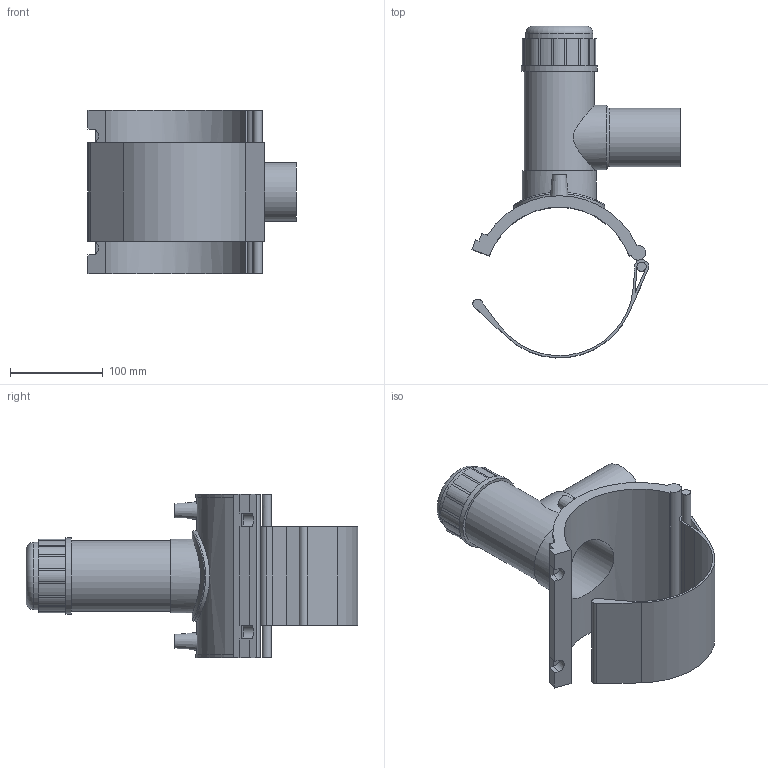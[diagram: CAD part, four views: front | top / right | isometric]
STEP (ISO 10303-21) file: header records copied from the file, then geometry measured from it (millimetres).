
FILE_DESCRIPTION(/* description */ ('PLASSON TAPPING TEE SADDLE 160mm x 63mm'),/* implementation_level */ '2;1');
FILE_NAME(/* name */ 'C:\Dropbox\KIMPROJECTS-Inventor 2019\99-16-3568-Processing\ElectroFusion Fittings\491304\491304160063.stp',/* time_stamp */ '2023-03-23T11:28:44+02:00',/* author */ ('KIM'),/* organization */ (''),/* preprocessor_version */ 'ST-DEVELOPER v17.2',/* originating_system */ 'Autodesk Inventor 2019',/* authorisation */ '');
FILE_SCHEMA (('AUTOMOTIVE_DESIGN { 1 0 10303 214 3 1 1 }'));
Length unit declared in the file: millimetre
Products named in the file (1): 491304160063
Bounding box: 223.97 x 357.28 x 176 mm (x, y, z)
Volume: 1009256.1 mm3; surface area: 274359 mm2
Topology: 2 solids, 2 shells, 108 faces, 282 edges, 193 vertices
Faces by surface type: plane 59, cylinder 44, cone 3, bspline 1, torus 1
Full cylindrical faces by diameter (mm): 4 x2, 10 x3, 50.4 x1, 63 x1, 69.3 x1, 69.6 x1, 72.45 x1, 75.6 x1, 79.6 x1, 81.9 x1, 97.65 x1
Entity records: 3966 total; most frequent: CARTESIAN_POINT 1159, DIRECTION 586, ORIENTED_EDGE 566, EDGE_CURVE 283, AXIS2_PLACEMENT_3D 212, VERTEX_POINT 195, LINE 162, VECTOR 162
